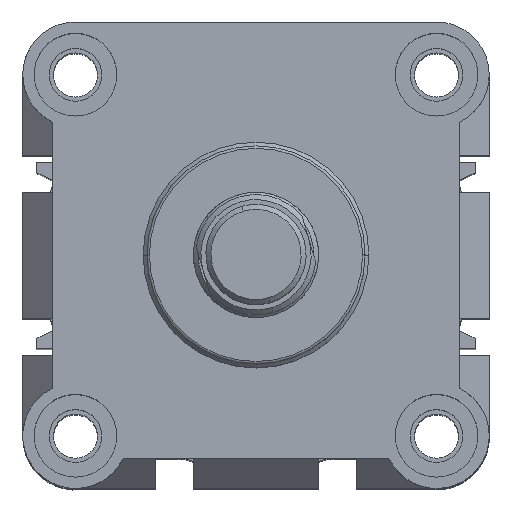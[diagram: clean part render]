
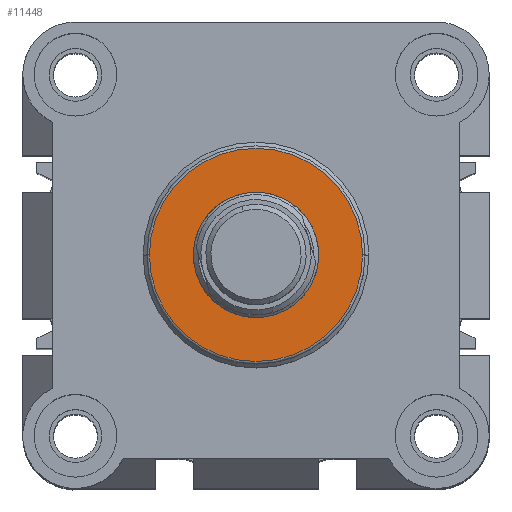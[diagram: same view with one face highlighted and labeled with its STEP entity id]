
A CAD part, top view. The second image highlights one B-rep face of the part: STEP entity #11448.
In plain terms, the highlighted planar face has unit normal (0, 0, 1) as drawn and (0, 0, -1) by its records, which use the part's own axes.
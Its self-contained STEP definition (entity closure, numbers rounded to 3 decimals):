
#142 = DIRECTION ( 'NONE',  ( -1., 0., 0. ) ) ;
#284 = ORIENTED_EDGE ( 'NONE', *, *, #10400, .F. ) ;
#1365 = AXIS2_PLACEMENT_3D ( 'NONE', #6746, #5420, #18935 ) ;
#1650 = CARTESIAN_POINT ( 'NONE',  ( 46.5, 46.5, -34.7 ) ) ;
#2927 = EDGE_CURVE ( 'NONE', #6352, #7730, #9321, .T. ) ;
#2994 = DIRECTION ( 'NONE',  ( 0., 0., -1. ) ) ;
#3085 = AXIS2_PLACEMENT_3D ( 'NONE', #5097, #15405, #4974 ) ;
#3149 = EDGE_CURVE ( 'NONE', #7730, #6352, #6729, .T. ) ;
#4250 = VERTEX_POINT ( 'NONE', #6329 ) ;
#4400 = ORIENTED_EDGE ( 'NONE', *, *, #3149, .T. ) ;
#4974 = DIRECTION ( 'NONE',  ( -1., 0., 0. ) ) ;
#5097 = CARTESIAN_POINT ( 'NONE',  ( 46.5, 46.5, -34.7 ) ) ;
#5420 = DIRECTION ( 'NONE',  ( 0., 0., -1. ) ) ;
#5708 = CARTESIAN_POINT ( 'NONE',  ( 34., 46.5, -34.7 ) ) ;
#6329 = CARTESIAN_POINT ( 'NONE',  ( 59., 46.5, -34.7 ) ) ;
#6352 = VERTEX_POINT ( 'NONE', #12439 ) ;
#6729 = CIRCLE ( 'NONE', #11905, 21.25 ) ;
#6746 = CARTESIAN_POINT ( 'NONE',  ( 46.5, 46.5, -34.7 ) ) ;
#7730 = VERTEX_POINT ( 'NONE', #15230 ) ;
#8581 = AXIS2_PLACEMENT_3D ( 'NONE', #17502, #19027, #9857 ) ;
#9256 = DIRECTION ( 'NONE',  ( 0., 0., -1. ) ) ;
#9321 = CIRCLE ( 'NONE', #8581, 21.25 ) ;
#9699 = AXIS2_PLACEMENT_3D ( 'NONE', #1650, #2994, #18120 ) ;
#9857 = DIRECTION ( 'NONE',  ( -1., 0., 0. ) ) ;
#9974 = FACE_OUTER_BOUND ( 'NONE', #17693, .T. ) ;
#10238 = FACE_BOUND ( 'NONE', #19501, .T. ) ;
#10400 = EDGE_CURVE ( 'NONE', #10863, #4250, #14121, .T. ) ;
#10863 = VERTEX_POINT ( 'NONE', #5708 ) ;
#11448 = ADVANCED_FACE ( 'NONE', ( #10238, #9974 ), #13750, .T. ) ;
#11905 = AXIS2_PLACEMENT_3D ( 'NONE', #13896, #9256, #142 ) ;
#12439 = CARTESIAN_POINT ( 'NONE',  ( 25.25, 46.5, -34.7 ) ) ;
#13750 = PLANE ( 'NONE',  #9699 ) ;
#13896 = CARTESIAN_POINT ( 'NONE',  ( 46.5, 46.5, -34.7 ) ) ;
#14121 = CIRCLE ( 'NONE', #3085, 12.5 ) ;
#14969 = CIRCLE ( 'NONE', #1365, 12.5 ) ;
#15230 = CARTESIAN_POINT ( 'NONE',  ( 67.75, 46.5, -34.7 ) ) ;
#15405 = DIRECTION ( 'NONE',  ( 0., 0., -1. ) ) ;
#17502 = CARTESIAN_POINT ( 'NONE',  ( 46.5, 46.5, -34.7 ) ) ;
#17693 = EDGE_LOOP ( 'NONE', ( #18673, #4400 ) ) ;
#18120 = DIRECTION ( 'NONE',  ( -1., 0., 0. ) ) ;
#18162 = ORIENTED_EDGE ( 'NONE', *, *, #18668, .F. ) ;
#18668 = EDGE_CURVE ( 'NONE', #4250, #10863, #14969, .T. ) ;
#18673 = ORIENTED_EDGE ( 'NONE', *, *, #2927, .T. ) ;
#18935 = DIRECTION ( 'NONE',  ( -1., 0., 0. ) ) ;
#19027 = DIRECTION ( 'NONE',  ( 0., 0., -1. ) ) ;
#19501 = EDGE_LOOP ( 'NONE', ( #284, #18162 ) ) ;
